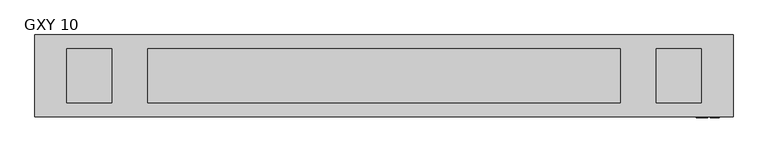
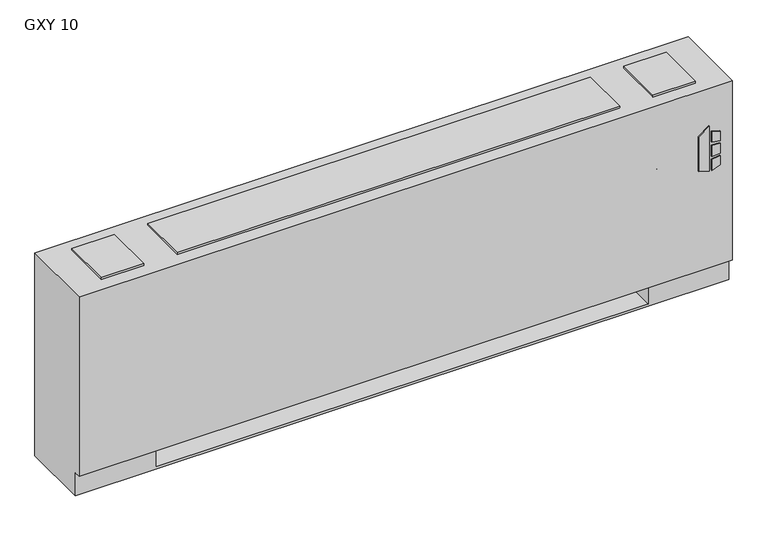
"""IFC4 building model written with IfcOpenShell, lengths in millimetres: proxy geometry, Vertical_Fan_Coil_Unit_-_GXY_-_IEC_-_2-Pipe_TS-FR_RH_2022 : GXY 10."""

from ifc_helpers import new_model, si_unit, point, frame, frame_2d, origin, place, context, project, spatial, polyline, circle_curve, trimmed, segment, composite_curve, outline, extrude, source, transform, mapped, element, save
from ifc_brep_helpers import plane_surface, revolved_surface, advanced_brep


def gxy_10_b46815d9(model_context):
    return source(origin(), model_context, "Body", "SolidModel", [
        extrude(outline(polyline([(391.6086829, 1027.1868862), (381.6606126, 1059.3602728), (523.831537, 1059.3602728), (500.8095309, 1027.1868862), (391.6086829, 1027.1868862)])), frame((0.0, 12.7, 0.0), z_axis=(0.0, 1.0, 0.0), x_axis=(0.0, 0.0, 1.0)), (0.0, 0.0, 1.0), 3.175),
        extrude(outline(polyline([(470.6079683, 1066.1186058), (467.4055757, 1092.2), (496.6344168, 1092.2), (504.6988318, 1066.1186058), (470.6079683, 1066.1186058)])), frame((0.0, 12.7, 0.0), z_axis=(0.0, 1.0, 0.0), x_axis=(0.0, 0.0, 1.0)), (0.0, 0.0, 1.0), 3.175),
        extrude(outline(polyline([(418.7444414, 1092.2), (415.0789404, 1066.1186058), (381.6606126, 1066.1186058), (390.2948498, 1092.2), (418.7444414, 1092.2)])), frame((0.0, 12.7, 0.0), z_axis=(0.0, 1.0, 0.0), x_axis=(0.0, 0.0, 1.0)), (0.0, 0.0, 1.0), 3.175),
        extrude(outline(polyline([(458.0596028, 1092.2), (460.3414292, 1066.1186058), (424.4038806, 1066.1186058), (427.1451456, 1092.2), (458.0596028, 1092.2)])), frame((0.0, 12.7, 0.0), z_axis=(0.0, 1.0, 0.0), x_axis=(0.0, 0.0, 1.0)), (0.0, 0.0, 1.0), 3.175),
        extrude(outline(polyline([(-704.85, 81.534), (-704.85, 223.266), (-127.0, 223.266), (-127.0, 81.534), (-704.85, 81.534)])), frame((0.0, 0.0, 327.025), z_axis=(0.0, 0.0, 1.0), x_axis=(1.0, 0.0, 0.0)), (0.0, 0.0, 1.0), 260.35),
        extrude(outline(polyline([(-609.6, 206.375), (-609.6, 53.975), (-736.6, 53.975), (-736.6, 206.375), (-609.6, 206.375)])), frame((0.0, 0.0, 641.35), z_axis=(0.0, 0.0, 1.0), x_axis=(1.0, 0.0, 0.0)), (0.0, 0.0, 1.0), 6.35),
        extrude(outline(polyline([(1041.4, 206.375), (1041.4, 53.975), (914.4, 53.975), (914.4, 206.375), (1041.4, 206.375)])), frame((0.0, 0.0, 641.35), z_axis=(0.0, 0.0, 1.0), x_axis=(1.0, 0.0, 0.0)), (0.0, 0.0, 1.0), 6.35),
        extrude(outline(composite_curve([segment(trimmed(circle_curve(frame_2d((78.9432, 398.5514)), 7.9375), [point((78.9432, 406.4889))], [point((78.9432, 390.6139))], False, "CARTESIAN"), True, "CONTINUOUS"), segment(trimmed(circle_curve(frame_2d((78.9432, 398.5514)), 7.9375), [point((78.9432, 390.6139))], [point((78.9432, 406.4889))], False, "CARTESIAN"), True, "CONTINUOUS")], self_intersect=False)), frame((889.0, 0.0, 0.0), z_axis=(1.0, 0.0, 0.0), x_axis=(0.0, 1.0, 0.0)), (0.0, 0.0, 1.0), 50.8),
        extrude(outline(composite_curve([segment(trimmed(circle_curve(frame_2d((155.9052, 537.3878)), 7.9375), [point((155.9052, 545.3253))], [point((155.9052, 529.4503))], False, "CARTESIAN"), True, "CONTINUOUS"), segment(trimmed(circle_curve(frame_2d((155.9052, 537.3878)), 7.9375), [point((155.9052, 529.4503))], [point((155.9052, 545.3253))], False, "CARTESIAN"), True, "CONTINUOUS")], self_intersect=False)), frame((889.0, 0.0, 0.0), z_axis=(1.0, 0.0, 0.0), x_axis=(0.0, 1.0, 0.0)), (0.0, 0.0, 1.0), 50.8),
        advanced_brep(
        [(1130.3, 244.475, 641.35), (-825.5, 244.475, 641.35), (-825.5, 15.875, 641.35), (1130.3, 15.875, 641.35), (-825.5, 244.475, 0.0), (1130.3, 244.475, 0.0), (1130.3, 34.925, 0.0), (-825.5, 34.925, 0.0), (889.0, 244.475, 73.025), (1117.6, 244.475, 73.025), (1117.6, 244.475, 628.65), (889.0, 244.475, 628.65), (889.0, 244.475, 418.0400565), (917.575, 244.475, 418.0400565), (917.575, 244.475, 388.4099435), (889.0, 244.475, 388.4099435), (889.0, 244.475, 290.5125), (917.575, 244.475, 290.5125), (917.575, 244.475, 261.9375), (889.0, 244.475, 261.9375), (889.0, 244.475, 119.0625), (917.575, 244.475, 119.0625), (917.575, 244.475, 90.4875), (889.0, 244.475, 90.4875), (-584.2, 244.475, 628.65), (-812.8, 244.475, 628.65), (-812.8, 244.475, 73.025), (-584.2, 244.475, 73.025), (-584.2, 244.475, 90.4875), (-612.775, 244.475, 90.4875), (-612.775, 244.475, 119.0625), (-584.2, 244.475, 119.0625), (-584.2, 244.475, 261.9375), (-612.775, 244.475, 261.9375), (-612.775, 244.475, 290.5125), (-584.2, 244.475, 290.5125), (-584.2, 244.475, 388.4099435), (-612.775, 244.475, 388.4099435), (-612.775, 244.475, 418.0400565), (-584.2, 244.475, 418.0400565), (907.2626, 244.475, 104.775), (896.1374, 244.475, 104.775), (907.2626, 244.475, 403.225), (896.1374, 244.475, 403.225), (907.2626, 244.475, 276.225), (896.1374, 244.475, 276.225), (-591.3374, 244.475, 104.775), (-602.4626, 244.475, 104.775), (-591.3374, 244.475, 276.225), (-602.4626, 244.475, 276.225), (-591.3374, 244.475, 403.225), (-602.4626, 244.475, 403.225), (-825.5, 34.925, 73.025), (-825.5, 15.875, 73.025), (1130.3, 15.875, 73.025), (1130.3, 34.925, 73.025), (-584.2, 34.925, 73.025), (-584.2, 219.075, 73.025), (889.0, 219.075, 73.025), (889.0, 34.925, 73.025), (889.0, 34.925, 6.35), (-584.2, 34.925, 6.35), (889.0, 41.275, 628.65), (1117.6, 41.275, 628.65), (1117.6, 41.275, 73.025), (889.0, 41.275, 73.025), (-584.2, 41.275, 628.65), (-584.2, 41.275, 73.025), (-812.8, 41.275, 73.025), (-812.8, 41.275, 628.65), (889.0, 219.075, 73.025), (889.0, 238.125, 90.4875), (889.0, 238.125, 119.0625), (889.0, 238.125, 261.9375), (889.0, 238.125, 290.5125), (889.0, 238.125, 388.4099435), (889.0, 238.125, 418.0400565), (-584.2, 219.075, 73.025), (-584.2, 238.125, 418.0400565), (-584.2, 238.125, 388.4099435), (-584.2, 238.125, 290.5125), (-584.2, 238.125, 261.9375), (-584.2, 238.125, 119.0625), (-584.2, 238.125, 90.4875), (-584.2, 219.075, 6.35), (889.0, 219.075, 6.35), (917.575, 238.125, 90.4875), (917.575, 238.125, 119.0625), (896.1374, 238.125, 104.775), (907.2626, 238.125, 104.775), (917.575, 238.125, 261.9375), (917.575, 238.125, 290.5125), (896.1374, 238.125, 276.225), (907.2626, 238.125, 276.225), (917.575, 238.125, 388.4099435), (917.575, 238.125, 418.0400565), (896.1374, 238.125, 403.225), (907.2626, 238.125, 403.225), (-612.775, 238.125, 119.0625), (-612.775, 238.125, 90.4875), (-602.4626, 238.125, 104.775), (-591.3374, 238.125, 104.775), (-612.775, 238.125, 290.5125), (-612.775, 238.125, 261.9375), (-602.4626, 238.125, 276.225), (-591.3374, 238.125, 276.225), (-612.775, 238.125, 418.0400565), (-612.775, 238.125, 388.4099435), (-602.4626, 238.125, 403.225), (-591.3374, 238.125, 403.225)],
        [
            (0, 1),
            (1, 2),
            (2, 3),
            (3, 0),
            (4, 5),
            (5, 6),
            (6, 7),
            (7, 4),
            (0, 5),
            (4, 1),
            (8, 9),
            (9, 10),
            (10, 11),
            (11, 12),
            (12, 13),
            (13, 14),
            (14, 15),
            (15, 16),
            (16, 17),
            (17, 18),
            (18, 19),
            (19, 20),
            (20, 21),
            (21, 22),
            (22, 23),
            (23, 8),
            (24, 25),
            (25, 26),
            (26, 27),
            (27, 28),
            (28, 29),
            (29, 30),
            (30, 31),
            (31, 32),
            (32, 33),
            (33, 34),
            (34, 35),
            (35, 36),
            (36, 37),
            (37, 38),
            (38, 39),
            (39, 24),
            (40, 41, circle_curve(frame((901.7, 244.475, 104.775), z_axis=(0.0, -1.0, 0.0), x_axis=(-1.0, 0.0, 0.0)), 5.5626)),
            (41, 40, circle_curve(frame((901.7, 244.475, 104.775), z_axis=(0.0, -1.0, 0.0), x_axis=(-1.0, 0.0, 0.0)), 5.5626)),
            (42, 43, circle_curve(frame((901.7, 244.475, 403.225), z_axis=(0.0, -1.0, 0.0), x_axis=(-1.0, 0.0, 0.0)), 5.5626)),
            (43, 42, circle_curve(frame((901.7, 244.475, 403.225), z_axis=(0.0, -1.0, 0.0), x_axis=(-1.0, 0.0, 0.0)), 5.5626)),
            (44, 45, circle_curve(frame((901.7, 244.475, 276.225), z_axis=(0.0, -1.0, 0.0), x_axis=(-1.0, 0.0, 0.0)), 5.5626)),
            (45, 44, circle_curve(frame((901.7, 244.475, 276.225), z_axis=(0.0, -1.0, 0.0), x_axis=(-1.0, 0.0, 0.0)), 5.5626)),
            (46, 47, circle_curve(frame((-596.9, 244.475, 104.775), z_axis=(0.0, -1.0, 0.0), x_axis=(-1.0, 0.0, 0.0)), 5.5626)),
            (47, 46, circle_curve(frame((-596.9, 244.475, 104.775), z_axis=(0.0, -1.0, 0.0), x_axis=(-1.0, 0.0, 0.0)), 5.5626)),
            (48, 49, circle_curve(frame((-596.9, 244.475, 276.225), z_axis=(0.0, -1.0, 0.0), x_axis=(-1.0, 0.0, 0.0)), 5.5626)),
            (49, 48, circle_curve(frame((-596.9, 244.475, 276.225), z_axis=(0.0, -1.0, 0.0), x_axis=(-1.0, 0.0, 0.0)), 5.5626)),
            (50, 51, circle_curve(frame((-596.9, 244.475, 403.225), z_axis=(0.0, -1.0, 0.0), x_axis=(-1.0, 0.0, 0.0)), 5.5626)),
            (51, 50, circle_curve(frame((-596.9, 244.475, 403.225), z_axis=(0.0, -1.0, 0.0), x_axis=(-1.0, 0.0, 0.0)), 5.5626)),
            (7, 52),
            (52, 53),
            (53, 2),
            (53, 54),
            (54, 3),
            (54, 55),
            (55, 6),
            (52, 56),
            (56, 57),
            (57, 58),
            (58, 59),
            (59, 55),
            (59, 60),
            (60, 61),
            (61, 56),
            (62, 63),
            (63, 64),
            (64, 65),
            (65, 62),
            (66, 67),
            (67, 68),
            (68, 69),
            (69, 66),
            (65, 70),
            (70, 8),
            (23, 71),
            (71, 72),
            (72, 20),
            (19, 73),
            (73, 74),
            (74, 16),
            (15, 75),
            (75, 76),
            (76, 12),
            (11, 62),
            (64, 9),
            (63, 10),
            (69, 25),
            (24, 66),
            (68, 26),
            (67, 77),
            (77, 27),
            (39, 78),
            (78, 79),
            (79, 36),
            (35, 80),
            (80, 81),
            (81, 32),
            (31, 82),
            (82, 83),
            (83, 28),
            (57, 84),
            (84, 85),
            (85, 58),
            (85, 60),
            (84, 61),
            (71, 86),
            (86, 87),
            (87, 72),
            (88, 89, circle_curve(frame((901.7, 238.125, 104.775), z_axis=(0.0, 1.0, 0.0), x_axis=(-1.0, 0.0, 0.0)), 5.5626)),
            (89, 88, circle_curve(frame((901.7, 238.125, 104.775), z_axis=(0.0, 1.0, 0.0), x_axis=(-1.0, 0.0, 0.0)), 5.5626)),
            (73, 90),
            (90, 91),
            (91, 74),
            (92, 93, circle_curve(frame((901.7, 238.125, 276.225), z_axis=(0.0, 1.0, 0.0), x_axis=(-1.0, 0.0, 0.0)), 5.5626)),
            (93, 92, circle_curve(frame((901.7, 238.125, 276.225), z_axis=(0.0, 1.0, 0.0), x_axis=(-1.0, 0.0, 0.0)), 5.5626)),
            (75, 94),
            (94, 95),
            (95, 76),
            (96, 97, circle_curve(frame((901.7, 238.125, 403.225), z_axis=(0.0, 1.0, 0.0), x_axis=(-1.0, 0.0, 0.0)), 5.5626)),
            (97, 96, circle_curve(frame((901.7, 238.125, 403.225), z_axis=(0.0, 1.0, 0.0), x_axis=(-1.0, 0.0, 0.0)), 5.5626)),
            (98, 99),
            (99, 83),
            (82, 98),
            (100, 101, circle_curve(frame((-596.9, 238.125, 104.775), z_axis=(0.0, 1.0, 0.0), x_axis=(-1.0, 0.0, 0.0)), 5.5626)),
            (101, 100, circle_curve(frame((-596.9, 238.125, 104.775), z_axis=(0.0, 1.0, 0.0), x_axis=(-1.0, 0.0, 0.0)), 5.5626)),
            (102, 103),
            (103, 81),
            (80, 102),
            (104, 105, circle_curve(frame((-596.9, 238.125, 276.225), z_axis=(0.0, 1.0, 0.0), x_axis=(-1.0, 0.0, 0.0)), 5.5626)),
            (105, 104, circle_curve(frame((-596.9, 238.125, 276.225), z_axis=(0.0, 1.0, 0.0), x_axis=(-1.0, 0.0, 0.0)), 5.5626)),
            (106, 107),
            (107, 79),
            (78, 106),
            (108, 109, circle_curve(frame((-596.9, 238.125, 403.225), z_axis=(0.0, 1.0, 0.0), x_axis=(-1.0, 0.0, 0.0)), 5.5626)),
            (109, 108, circle_curve(frame((-596.9, 238.125, 403.225), z_axis=(0.0, 1.0, 0.0), x_axis=(-1.0, 0.0, 0.0)), 5.5626)),
            (87, 21),
            (86, 22),
            (91, 17),
            (90, 18),
            (95, 13),
            (94, 14),
            (30, 98),
            (99, 29),
            (34, 102),
            (103, 33),
            (38, 106),
            (107, 37),
            (88, 41),
            (40, 89),
            (96, 43),
            (42, 97),
            (92, 45),
            (44, 93),
            (100, 47),
            (46, 101),
            (104, 49),
            (48, 105),
            (108, 51),
            (50, 109),
        ],
        [
            plane_surface(frame((-825.5, 244.475, 641.35), z_axis=(0.0, 0.0, 1.0), x_axis=(-1.0, 0.0, 0.0))),
            plane_surface(frame((-825.5, 244.475, 0.0), z_axis=(0.0, 0.0, -1.0), x_axis=(1.0, 0.0, 0.0))),
            plane_surface(frame((1130.3, 244.475, 641.35), z_axis=(0.0, 1.0, 0.0), x_axis=(0.0, 0.0, -1.0))),
            plane_surface(frame((-825.5, 244.475, 641.35), z_axis=(-1.0, 0.0, 0.0), x_axis=(0.0, 0.0, -1.0))),
            plane_surface(frame((-825.5, 15.875, 641.35), z_axis=(0.0, -1.0, 0.0), x_axis=(0.0, 0.0, -1.0))),
            plane_surface(frame((1130.3, 15.875, 641.35), z_axis=(1.0, 0.0, 0.0), x_axis=(0.0, 0.0, -1.0))),
            plane_surface(frame((-825.5, 15.875, 73.025), z_axis=(0.0, 0.0, -1.0), x_axis=(1.0, 0.0, 0.0))),
            plane_surface(frame((-825.5, 34.925, 73.025), z_axis=(0.0, -1.0, 0.0), x_axis=(1.0, 0.0, 0.0))),
            plane_surface(frame((889.0, 41.275, 628.65), z_axis=(0.0, 1.0, 0.0), x_axis=(0.0, 0.0, -1.0))),
            plane_surface(frame((889.0, 41.275, 628.65), z_axis=(1.0, 0.0, 0.0), x_axis=(0.0, 1.0, 0.0))),
            plane_surface(frame((889.0, 41.275, 73.025), z_axis=(0.0, 0.0, 1.0), x_axis=(0.0, 1.0, 0.0))),
            plane_surface(frame((1117.6, 41.275, 73.025), z_axis=(-1.0, 0.0, 0.0), x_axis=(0.0, 1.0, 0.0))),
            plane_surface(frame((1117.6, 41.275, 628.65), z_axis=(0.0, 0.0, -1.0), x_axis=(0.0, 1.0, 0.0))),
            plane_surface(frame((-584.2, 41.275, 628.65), z_axis=(0.0, 0.0, -1.0), x_axis=(0.0, 1.0, 0.0))),
            plane_surface(frame((-812.8, 41.275, 628.65), z_axis=(1.0, 0.0, 0.0), x_axis=(0.0, 1.0, 0.0))),
            plane_surface(frame((-812.8, 41.275, 73.025), z_axis=(0.0, 0.0, 1.0), x_axis=(0.0, 1.0, 0.0))),
            plane_surface(frame((-584.2, 41.275, 73.025), z_axis=(-1.0, 0.0, 0.0), x_axis=(0.0, 1.0, 0.0))),
            plane_surface(frame((889.0, 219.075, 73.025), z_axis=(0.0, -1.0, 0.0), x_axis=(0.0, 0.0, -1.0))),
            plane_surface(frame((889.0, 219.075, 73.025), z_axis=(-1.0, 0.0, 0.0), x_axis=(0.0, -1.0, 0.0))),
            plane_surface(frame((889.0, 219.075, 6.35), z_axis=(0.0, 0.0, 1.0), x_axis=(0.0, -1.0, 0.0))),
            plane_surface(frame((-584.2, 219.075, 6.35), z_axis=(1.0, 0.0, 0.0), x_axis=(0.0, -1.0, 0.0))),
            plane_surface(frame((917.575, 238.125, 119.0625), z_axis=(0.0, -1.0, 0.0), x_axis=(-1.0, 0.0, 0.0))),
            plane_surface(frame((889.0, 244.475, 119.0625), z_axis=(0.0, 0.0, 1.0), x_axis=(0.0, -1.0, 0.0))),
            plane_surface(frame((917.575, 244.475, 119.0625), z_axis=(1.0, 0.0, 0.0), x_axis=(0.0, -1.0, 0.0))),
            plane_surface(frame((917.575, 244.475, 90.4875), z_axis=(0.0, 0.0, -1.0), x_axis=(0.0, -1.0, 0.0))),
            plane_surface(frame((889.0, 244.475, 290.5125), z_axis=(0.0, 0.0, 1.0), x_axis=(0.0, -1.0, 0.0))),
            plane_surface(frame((917.575, 244.475, 290.5125), z_axis=(1.0, 0.0, 0.0), x_axis=(0.0, -1.0, 0.0))),
            plane_surface(frame((917.575, 244.475, 261.9375), z_axis=(0.0, 0.0, -1.0), x_axis=(0.0, -1.0, 0.0))),
            plane_surface(frame((889.0, 244.475, 418.0400565), z_axis=(0.0, 0.0, 1.0), x_axis=(0.0, -1.0, 0.0))),
            plane_surface(frame((917.575, 244.475, 418.0400565), z_axis=(1.0, 0.0, 0.0), x_axis=(0.0, -1.0, 0.0))),
            plane_surface(frame((917.575, 244.475, 388.4099435), z_axis=(0.0, 0.0, -1.0), x_axis=(0.0, -1.0, 0.0))),
            plane_surface(frame((-612.775, 244.475, 119.0625), z_axis=(0.0, 0.0, 1.0), x_axis=(0.0, -1.0, 0.0))),
            plane_surface(frame((-584.2, 244.475, 90.4875), z_axis=(0.0, 0.0, -1.0), x_axis=(0.0, -1.0, 0.0))),
            plane_surface(frame((-612.775, 244.475, 90.4875), z_axis=(-1.0, 0.0, 0.0), x_axis=(0.0, -1.0, 0.0))),
            plane_surface(frame((-612.775, 244.475, 290.5125), z_axis=(0.0, 0.0, 1.0), x_axis=(0.0, -1.0, 0.0))),
            plane_surface(frame((-584.2, 244.475, 261.9375), z_axis=(0.0, 0.0, -1.0), x_axis=(0.0, -1.0, 0.0))),
            plane_surface(frame((-612.775, 244.475, 261.9375), z_axis=(-1.0, 0.0, 0.0), x_axis=(0.0, -1.0, 0.0))),
            plane_surface(frame((-612.775, 244.475, 418.0400565), z_axis=(0.0, 0.0, 1.0), x_axis=(0.0, -1.0, 0.0))),
            plane_surface(frame((-584.2, 244.475, 388.4099435), z_axis=(0.0, 0.0, -1.0), x_axis=(0.0, -1.0, 0.0))),
            plane_surface(frame((-612.775, 244.475, 388.4099435), z_axis=(-1.0, 0.0, 0.0), x_axis=(0.0, -1.0, 0.0))),
            revolved_surface(polyline([(896.1374000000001, 238.125, 104.775), (896.1374000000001, 244.475, 104.775)]), (901.7, 244.475, 104.775), (0.0, -1.0, 0.0)),
            revolved_surface(polyline([(896.1374000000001, 238.125, 403.225), (896.1374000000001, 244.475, 403.225)]), (901.7, 244.475, 403.225), (0.0, -1.0, 0.0)),
            revolved_surface(polyline([(896.1374000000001, 238.125, 276.225), (896.1374000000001, 244.475, 276.225)]), (901.7, 244.475, 276.225), (0.0, -1.0, 0.0)),
            revolved_surface(polyline([(-602.4626, 238.125, 104.775), (-602.4626, 244.475, 104.775)]), (-596.9, 244.475, 104.775), (0.0, -1.0, 0.0)),
            revolved_surface(polyline([(-602.4626, 238.125, 276.225), (-602.4626, 244.475, 276.225)]), (-596.9, 244.475, 276.225), (0.0, -1.0, 0.0)),
            revolved_surface(polyline([(-602.4626, 238.125, 403.225), (-602.4626, 244.475, 403.225)]), (-596.9, 244.475, 403.225), (0.0, -1.0, 0.0)),
        ],
        [
            (0, [[1, 2, 3, 4]]),
            (1, [[5, 6, 7, 8]]),
            (2, [[-1, 9, -5, 10], [11, 12, 13, 14, 15, 16, 17, 18, 19, 20, 21, 22, 23, 24, 25, 26], [27, 28, 29, 30, 31, 32, 33, 34, 35, 36, 37, 38, 39, 40, 41, 42], [43, 44], [45, 46], [47, 48], [49, 50], [51, 52], [53, 54]]),
            (3, [[-2, -10, -8, 55, 56, 57]]),
            (4, [[-3, -57, 58, 59]]),
            (5, [[-4, -59, 60, 61, -6, -9]]),
            (6, [[-56, 62, 63, 64, 65, 66, -60, -58]]),
            (7, [[-7, -61, -66, 67, 68, 69, -62, -55]]),
            (8, [[70, 71, 72, 73]]),
            (8, [[74, 75, 76, 77]]),
            (9, [[-73, 78, 79, -26, 80, 81, 82, -22, 83, 84, 85, -18, 86, 87, 88, -14, 89]]),
            (10, [[-72, 90, -11, -79, -78]]),
            (11, [[-71, 91, -12, -90]]),
            (12, [[-70, -89, -13, -91]]),
            (13, [[-77, 92, -27, 93]]),
            (14, [[-76, 94, -28, -92]]),
            (15, [[-75, 95, 96, -29, -94]]),
            (16, [[-74, -93, -42, 97, 98, 99, -38, 100, 101, 102, -34, 103, 104, 105, -30, -96, -95]]),
            (17, [[-64, 106, 107, 108]]),
            (18, [[-108, 109, -67, -65]]),
            (19, [[-107, 110, -68, -109]]),
            (20, [[-106, -63, -69, -110]]),
            (21, [[111, 112, 113, -81], [114, 115]]),
            (21, [[116, 117, 118, -84], [119, 120]]),
            (21, [[121, 122, 123, -87], [124, 125]]),
            (21, [[126, 127, -104, 128], [129, 130]]),
            (21, [[131, 132, -101, 133], [134, 135]]),
            (21, [[136, 137, -98, 138], [139, 140]]),
            (22, [[-113, 141, -23, -82]]),
            (23, [[-112, 142, -24, -141]]),
            (24, [[-111, -80, -25, -142]]),
            (25, [[-118, 143, -19, -85]]),
            (26, [[-117, 144, -20, -143]]),
            (27, [[-116, -83, -21, -144]]),
            (28, [[-123, 145, -15, -88]]),
            (29, [[-122, 146, -16, -145]]),
            (30, [[-121, -86, -17, -146]]),
            (31, [[-128, -103, -33, 147]]),
            (32, [[-127, 148, -31, -105]]),
            (33, [[-126, -147, -32, -148]]),
            (34, [[-133, -100, -37, 149]]),
            (35, [[-132, 150, -35, -102]]),
            (36, [[-131, -149, -36, -150]]),
            (37, [[-138, -97, -41, 151]]),
            (38, [[-137, 152, -39, -99]]),
            (39, [[-136, -151, -40, -152]]),
            (40, [[153, -43, 154, -114]]),
            (40, [[-153, -115, -154, -44]]),
            (41, [[155, -45, 156, -124]]),
            (41, [[-155, -125, -156, -46]]),
            (42, [[157, -47, 158, -119]]),
            (42, [[-157, -120, -158, -48]]),
            (43, [[159, -49, 160, -129]]),
            (43, [[-159, -130, -160, -50]]),
            (44, [[161, -51, 162, -134]]),
            (44, [[-161, -135, -162, -52]]),
            (45, [[163, -53, 164, -139]]),
            (45, [[-163, -140, -164, -54]]),
        ],
    ),
        extrude(outline(polyline([(814.3875, 206.375), (814.3875, 53.975), (-509.5875, 53.975), (-509.5875, 206.375), (814.3875, 206.375)])), frame((0.0, 0.0, 641.35), z_axis=(0.0, 0.0, 1.0), x_axis=(1.0, 0.0, 0.0)), (0.0, 0.0, 1.0), 6.35),
    ])


if __name__ == "__main__":
    model = new_model("IFC4")
    model_context = context("Model", 3, world=origin())
    ifc_project = project(units=[si_unit("LENGTHUNIT", "METRE", prefix="MILLI")], contexts=[model_context])
    site = spatial("IfcSite", under=ifc_project)
    building = spatial("IfcBuilding", under=site)
    placement = place(None, origin())
    gxy_10_shape = gxy_10_b46815d9(model_context)
    element("IfcBuildingElementProxy", 1, Name="Vertical_Fan_Coil_Unit_-_GXY_-_IEC_-_2-Pipe_TS-FR_RH_2022 : GXY 10", ObjectType="Vertical_Fan_Coil_Unit_-_GXY_-_IEC_-_2-Pipe_TS-FR_RH_2022 : GXY 10", at=placement, inside=building, context=model_context, shape_type="MappedRepresentation", body=[
        mapped(gxy_10_shape, transform((0.0, 0.0, 0.0), x_axis=(1.0, 0.0, 0.0), y_axis=(0.0, 1.0, 0.0), z_axis=(0.0, 0.0, 1.0))),
    ])
    save(model, "model.ifc")
